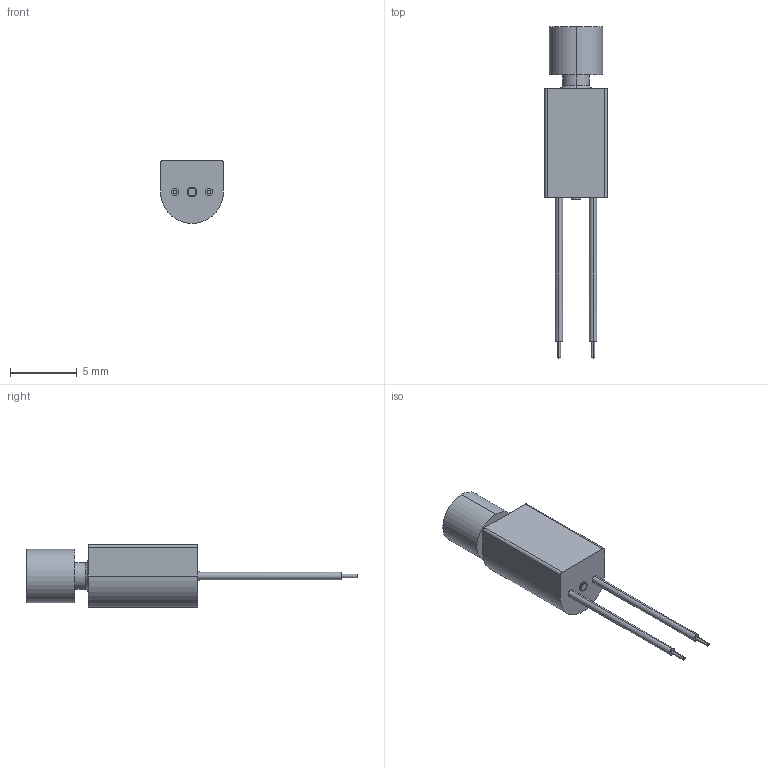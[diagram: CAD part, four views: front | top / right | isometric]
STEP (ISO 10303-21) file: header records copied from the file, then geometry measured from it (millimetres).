
FILE_DESCRIPTION(('FreeCAD Model'),'2;1');
FILE_NAME('C:/Users/itrya/Desktop/Z4TL2B0620043P/VZ4TL2B0620044P--.stp', '2020-09-02T11:25:14',('Author'),(''), 'Open CASCADE STEP processor 7.3','FreeCAD','Unknown');
FILE_SCHEMA(('AUTOMOTIVE_DESIGN { 1 0 10303 214 1 1 1 1 }'));
Length unit declared in the file: millimetre
Products named in the file (2): Assembly; VZ4TL2B0620044P-prt0
Assembly tree (1 placements, depth 2):
  Assembly
    VZ4TL2B0620044P-prt0
Bounding box: 4.7 x 24.85 x 4.7 mm (x, y, z)
Volume: 215.2 mm3; surface area: 284.1 mm2
Topology: 1 solids, 1 shells, 36 faces, 74 edges, 48 vertices
Faces by surface type: bspline 20, plane 13, cylinder 3
Entity records: 1364 total; most frequent: CARTESIAN_POINT 438, ORIENTED_EDGE 148, DIRECTION 112, EDGE_CURVE 74, AXIS2_PLACEMENT_3D 50, VERTEX_POINT 48, FACE_BOUND 44, EDGE_LOOP 44
